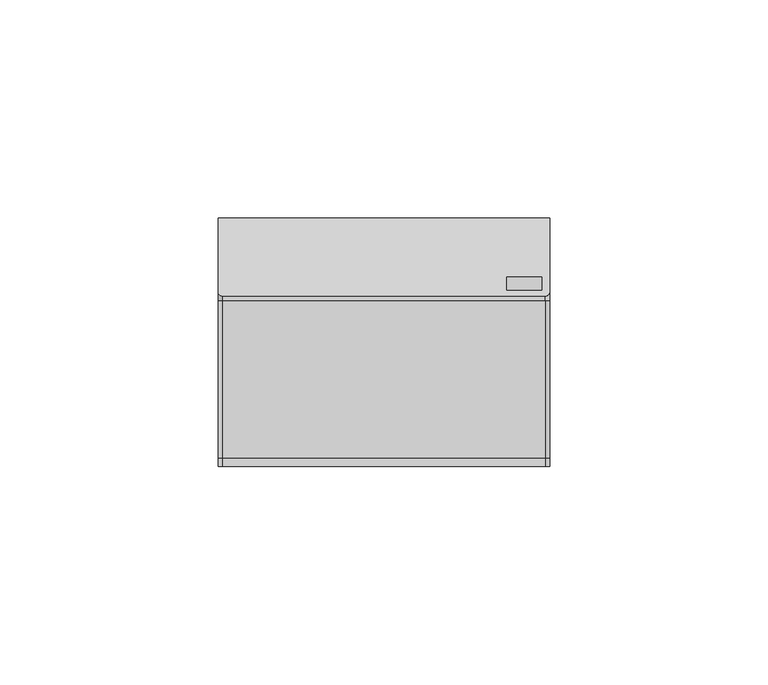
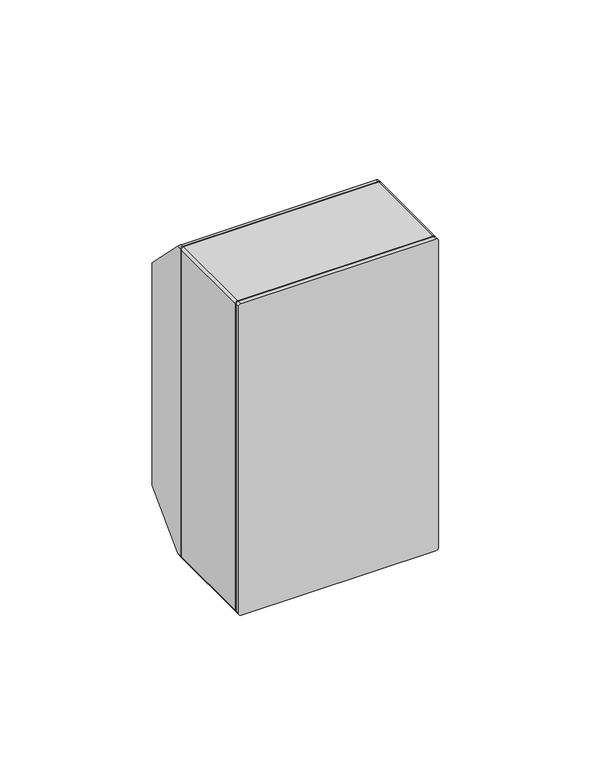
"""IFC4 building model written with IfcOpenShell, lengths in millimetres: proxy geometry, КМПн-1_4 : КМПн-1/4."""

import ifcopenshell
import ifcopenshell.guid

model = None  # the IFC model being written
_history = None  # IfcOwnerHistory: only IFC2X3 demands one
_inside = {}  # id of a spatial element -> (the spatial element, [elements in it])
_under = {}  # id of a project, library or spatial element -> (it, [spatial elements below it])
_declared = {}  # id of a project -> (the project, [libraries it declares])
_typed = {}  # id of a type object -> (the type object, [elements of that type])
_made_of = {}  # id of a material, layer set ... -> (it, [elements and type objects made of it])


def new_model(schema):
    """Start an empty IFC model of exactly this schema.

    Asked for "IFC4X3", IfcOpenShell would pick the latest addendum, in which some entities
    have other attributes; the version numbers below select the first issue.
    IFC2X3 requires an IfcOwnerHistory on every rooted entity: one is made here for all.
    """
    global model, _history
    if schema == "IFC4X3":
        model = ifcopenshell.file(schema_version=(4, 3, 0, 0))
    else:
        model = ifcopenshell.file(schema=schema)
    _inside.clear()
    _under.clear()
    _declared.clear()
    _typed.clear()
    _made_of.clear()
    _history = None
    if model.schema == "IFC2X3":
        org = make("IfcOrganization", Name="unknown")
        user = make(
            "IfcPersonAndOrganization",
            ThePerson=make("IfcPerson", FamilyName="unknown"),
            TheOrganization=org,
        )
        app = make(
            "IfcApplication",
            ApplicationDeveloper=org,
            Version="unknown",
            ApplicationFullName="unknown",
            ApplicationIdentifier="unknown",
        )
        _history = make(
            "IfcOwnerHistory",
            OwningUser=user,
            OwningApplication=app,
            ChangeAction="ADDED",
            CreationDate=0,
        )
    return model


def make(cls, **values):
    """One entity of the class cls with the attributes given. An attribute that is None is left unset."""
    return model.create_entity(
        cls, **{name: value for name, value in values.items() if value is not None}
    )


def rooted(cls, **values):
    """An entity with a GlobalId (a new one), such as an element, a storey or a relation."""
    return make(cls, GlobalId=ifcopenshell.guid.new(), OwnerHistory=_history, **values)


def si_unit(unit_type, name, prefix=None):
    """IfcSIUnit, for example si_unit("LENGTHUNIT", "METRE", prefix="MILLI")."""
    return make("IfcSIUnit", UnitType=unit_type, Prefix=prefix, Name=name)


def assignment(units):
    """IfcUnitAssignment: the units of a project."""
    return None if units is None else make("IfcUnitAssignment", Units=units)


def point(xyz):
    """IfcCartesianPoint."""
    return None if xyz is None else make("IfcCartesianPoint", Coordinates=xyz)


def direction(xyz):
    """IfcDirection."""
    return None if xyz is None else make("IfcDirection", DirectionRatios=xyz)


def frame(location, z_axis=None, x_axis=None):
    """IfcAxis2Placement3D, a coordinate frame: its origin and axes. An axis left out is left unset."""
    return make(
        "IfcAxis2Placement3D",
        Location=point(location),
        Axis=direction(z_axis),
        RefDirection=direction(x_axis),
    )


def frame_2d(location, x_axis=None):
    """IfcAxis2Placement2D, a coordinate frame in the plane: its origin and x axis."""
    return make(
        "IfcAxis2Placement2D", Location=point(location), RefDirection=direction(x_axis)
    )


def origin():
    """The frame at (0, 0, 0) with its axes left unset."""
    return frame((0.0, 0.0, 0.0))


def place(relative_to, where):
    """IfcLocalPlacement: puts the frame where relative to a parent placement (None: the world)."""
    return make(
        "IfcLocalPlacement", PlacementRelTo=relative_to, RelativePlacement=where
    )


def context(
    kind, dimensions, precision=None, world=None, true_north=None, identifier=None
):
    """IfcGeometricRepresentationContext, for example the 3D "Model" context."""
    return make(
        "IfcGeometricRepresentationContext",
        ContextIdentifier=identifier,
        ContextType=kind,
        CoordinateSpaceDimension=dimensions,
        Precision=precision,
        WorldCoordinateSystem=world,
        TrueNorth=true_north,
    )


def project(units=None, contexts=None):
    """IfcProject with its units and contexts."""
    return rooted(
        "IfcProject",
        Name="project",
        RepresentationContexts=contexts,
        UnitsInContext=assignment(units),
    )


def spatial(cls, under=None, at=None, **own):
    """A site, building, storey or space (cls), placed at a placement, below another one or the project."""
    s = rooted(cls, ObjectPlacement=at, **own)
    if under is not None:
        _under.setdefault(under.id(), (under, []))[1].append(s)
    return s


def polyline(points):
    """IfcPolyline through the points."""
    return make("IfcPolyline", Points=[point(p) for p in points])


def circle_curve(where, radius):
    """IfcCircle in the frame where."""
    return make("IfcCircle", Position=where, Radius=radius)


def ellipse_curve(where, semi_axis1, semi_axis2):
    """IfcEllipse in the frame where."""
    return make(
        "IfcEllipse", Position=where, SemiAxis1=semi_axis1, SemiAxis2=semi_axis2
    )


def trimmed(basis, trim1, trim2, sense, master):
    """IfcTrimmedCurve: the piece of a basis curve between two trims."""
    return make(
        "IfcTrimmedCurve",
        BasisCurve=basis,
        Trim1=trim1,
        Trim2=trim2,
        SenseAgreement=sense,
        MasterRepresentation=master,
    )


def segment(curve, same_sense, transition):
    """IfcCompositeCurveSegment."""
    return make(
        "IfcCompositeCurveSegment",
        Transition=transition,
        SameSense=same_sense,
        ParentCurve=curve,
    )


def composite_curve(segments, self_intersect=None):
    """IfcCompositeCurve: segments joined end to end."""
    return make("IfcCompositeCurve", Segments=segments, SelfIntersect=self_intersect)


def outline(outer, holes=None, kind="AREA"):
    """IfcArbitraryClosedProfileDef: a profile drawn as a closed curve; with holes, ...WithVoids."""
    if holes is None:
        return make("IfcArbitraryClosedProfileDef", ProfileType=kind, OuterCurve=outer)
    return make(
        "IfcArbitraryProfileDefWithVoids",
        ProfileType=kind,
        OuterCurve=outer,
        InnerCurves=holes,
    )


def extrude(swept, where, along, depth):
    """IfcExtrudedAreaSolid: the profile swept, set in the frame where, extruded along a direction by depth."""
    return make(
        "IfcExtrudedAreaSolid",
        SweptArea=swept,
        Position=where,
        ExtrudedDirection=direction(along),
        Depth=depth,
    )


def shape(context_of_items, identifier, shape_type, items):
    """IfcShapeRepresentation: the items that make up one representation, for example the "Body"."""
    return make(
        "IfcShapeRepresentation",
        ContextOfItems=context_of_items,
        RepresentationIdentifier=identifier,
        RepresentationType=shape_type,
        Items=items,
    )


def source(mapping_origin, context_of_items, identifier, shape_type, items):
    """IfcRepresentationMap: a shape defined once, which mapped items show again and again."""
    return make(
        "IfcRepresentationMap",
        MappingOrigin=mapping_origin,
        MappedRepresentation=shape(context_of_items, identifier, shape_type, items),
    )


def transform(
    local_origin,
    x_axis=None,
    y_axis=None,
    z_axis=None,
    scale=None,
    scale2=None,
    scale3=None,
    uniform=True,
):
    """IfcCartesianTransformationOperator3D, or its non-uniform kind. x_axis, y_axis, z_axis: its Axis1, 2, 3."""
    if uniform:
        return make(
            "IfcCartesianTransformationOperator3D",
            Axis1=direction(x_axis),
            Axis2=direction(y_axis),
            LocalOrigin=point(local_origin),
            Scale=scale,
            Axis3=direction(z_axis),
        )
    return make(
        "IfcCartesianTransformationOperator3DnonUniform",
        Axis1=direction(x_axis),
        Axis2=direction(y_axis),
        LocalOrigin=point(local_origin),
        Scale=scale,
        Axis3=direction(z_axis),
        Scale2=scale2,
        Scale3=scale3,
    )


def mapped(mapping_source, mapping_target):
    """IfcMappedItem: shows the shape of a source again, moved by a transform."""
    return make(
        "IfcMappedItem", MappingSource=mapping_source, MappingTarget=mapping_target
    )


def made_of(thing, what):
    """Note that an element or type object is made of a material, layer set ...; save() writes the relation."""
    if what is not None:
        _made_of.setdefault(what.id(), (what, []))[1].append(thing)
    return thing


def element(
    cls,
    number,
    at=None,
    inside=None,
    cuts=None,
    type_object=None,
    material=None,
    context=None,
    identifier="Body",
    shape_type=None,
    held_by="IfcProductDefinitionShape",
    body=None,
    shapes=None,
    **own,
):
    """One element of the class cls, such as IfcWall. Its Tag is "e" and its number.

    at: its placement. inside: the storey or other place that contains it. cuts: it is an
    opening in that element (IfcRelVoidsElement). A single representation is given by context,
    identifier, shape_type and body (its items); several are given by shapes. held_by: the class
    of the entity that holds the representations. save() writes the other relations.
    """
    e = rooted(cls, Tag="e%d" % number, ObjectPlacement=at, **own)
    if body is not None:
        shapes = [shape(context, identifier, shape_type, body)]
    if shapes is not None:
        e.Representation = make(held_by, Representations=shapes)
    if inside is not None:
        _inside.setdefault(inside.id(), (inside, []))[1].append(e)
    if cuts is not None:
        rooted(
            "IfcRelVoidsElement", RelatingBuildingElement=cuts, RelatedOpeningElement=e
        )
    if type_object is not None:
        _typed.setdefault(type_object.id(), (type_object, []))[1].append(e)
    return made_of(e, material)


def aggregate(whole, parts):
    """IfcRelAggregates: a whole, such as a stair, and the parts it consists of."""
    return rooted("IfcRelAggregates", RelatingObject=whole, RelatedObjects=parts)


def save(model, path):
    """Write the relations noted so far, then the file.

    IfcRelAggregates (storeys below a building ...), IfcRelContainedInSpatialStructure (elements
    in a storey), IfcRelDefinesByType, IfcRelAssociatesMaterial and IfcRelDeclares: one each for
    every whole, place, type object, material and project.
    """
    for whole, parts in _under.values():
        aggregate(whole, parts)
    for where, things in _inside.values():
        rooted(
            "IfcRelContainedInSpatialStructure",
            RelatedElements=things,
            RelatingStructure=where,
        )
    for kind, things in _typed.values():
        rooted("IfcRelDefinesByType", RelatedObjects=things, RelatingType=kind)
    for what, things in _made_of.values():
        rooted("IfcRelAssociatesMaterial", RelatedObjects=things, RelatingMaterial=what)
    for by, libraries in _declared.values():
        rooted("IfcRelDeclares", RelatingContext=by, RelatedDefinitions=libraries)
    model.write(path)


def plane_surface(at):
    """IfcPlane: the flat surface through the origin of the frame at, square to its z axis."""
    return make("IfcPlane", Position=at)


def cylinder_surface(at, radius):
    """IfcCylindricalSurface: all points at the distance radius from the z axis of the frame at."""
    return make("IfcCylindricalSurface", Position=at, Radius=radius)


def advanced_brep(points, edges, surfaces, faces):
    """IfcAdvancedBrep: a solid bounded by faces that lie on surfaces and meet in shared edges.

    An edge is (start, end): straight between two places in points (the first is 0);
    or (start, end, curve); or (start, end, curve, False) where it runs against its curve.
    A face is (place in surfaces, loops), or (place, loops, False) where it looks against
    its surface's normal. A loop lists edges by number (the first is 1), with a minus sign
    where the edge is run from its end to its start. The first loop is the outer one.
    """
    corners = [point(p) for p in points]
    vertices = [make("IfcVertexPoint", VertexGeometry=c) for c in corners]
    made = []
    for start, end, *more in edges:
        made.append(
            make(
                "IfcEdgeCurve",
                EdgeStart=vertices[start],
                EdgeEnd=vertices[end],
                EdgeGeometry=more[0] if more else make("IfcPolyline", Points=[corners[start], corners[end]]),
                SameSense=more[1] if len(more) > 1 else True,
            )
        )
    hull = []
    for where, loops, *sense in faces:
        bounds = []
        for j, loop in enumerate(loops):
            ring = [make("IfcOrientedEdge", EdgeElement=made[abs(k) - 1], Orientation=k > 0) for k in loop]
            bounds.append(
                make(
                    "IfcFaceOuterBound" if j == 0 else "IfcFaceBound",
                    Bound=make("IfcEdgeLoop", EdgeList=ring),
                    Orientation=True,
                )
            )
        hull.append(make("IfcAdvancedFace", Bounds=bounds, FaceSurface=surfaces[where], SameSense=sense[0] if sense else True))
    return make("IfcAdvancedBrep", Outer=make("IfcClosedShell", CfsFaces=hull))


def electrical_equipment_338b28ef(model_context):
    return source(origin(), model_context, "Body", "SolidModel", [
        advanced_brep(
        [(38.0, 57.0, 17.8949117), (38.0, 57.0, 107.1050883), (38.0, 40.1050883, 124.0), (38.0, 38.1050883, 124.0), (38.0, 38.1050883, 1.0), (38.0, 40.1050883, 1.0), (-38.0, 57.0, 107.1050883), (-38.0, 57.0, 17.8949117), (-38.0, 40.1050883, 1.0), (-38.0, 38.1050883, 1.0), (-38.0, 38.1050883, 124.0), (-38.0, 40.1050883, 124.0), (37.0, 38.1050883, 125.0), (-37.0, 38.1050883, 125.0), (-37.0, 38.1050883, 0.0), (37.0, 38.1050883, 0.0), (-23.0, 38.1050883, 95.0), (23.0, 38.1050883, 95.0), (23.0, 38.1050883, 30.0), (-23.0, 38.1050883, 30.0), (28.1494483, 38.1050883, 120.6777382), (28.1494483, 38.1050883, 123.6777382), (36.1494483, 38.1050883, 123.6777382), (36.1494483, 38.1050883, 120.6777382), (-28.1494483, 38.1050883, 4.3222618), (-28.1494483, 38.1050883, 1.3222618), (-36.1494483, 38.1050883, 1.3222618), (-36.1494483, 38.1050883, 4.3222618), (-37.0, 39.1050883, 125.0), (37.0, 39.1050883, 125.0), (28.1494483, 40.42735, 123.6777382), (28.1494483, 43.42735, 120.6777382), (36.1494483, 43.42735, 120.6777382), (36.1494483, 40.42735, 123.6777382), (23.0, 57.0, 95.0), (-23.0, 57.0, 95.0), (-23.0, 57.0, 30.0), (23.0, 57.0, 30.0), (-37.0, 39.1050883, 0.0), (37.0, 39.1050883, 0.0), (-28.1494483, 40.42735, 1.3222618), (-28.1494483, 43.42735, 4.3222618), (-36.1494483, 43.42735, 4.3222618), (-36.1494483, 40.42735, 1.3222618)],
        [
            (0, 1),
            (1, 2),
            (2, 3),
            (3, 4),
            (4, 5),
            (5, 0),
            (6, 7),
            (7, 8),
            (8, 9),
            (9, 10),
            (10, 11),
            (11, 6),
            (3, 12, circle_curve(frame((37.0, 38.1050883, 124.0), z_axis=(0.0, -1.0, 0.0), x_axis=(1.0, 0.0, 0.0)), 1.0)),
            (12, 13),
            (13, 10, circle_curve(frame((-37.0, 38.1050883, 124.0), z_axis=(0.0, -1.0, 0.0), x_axis=(1.0, 0.0, 0.0)), 1.0)),
            (9, 14, circle_curve(frame((-37.0, 38.1050883, 1.0), z_axis=(0.0, -1.0, 0.0), x_axis=(1.0, 0.0, 0.0)), 1.0)),
            (14, 15),
            (15, 4, circle_curve(frame((37.0, 38.1050883, 1.0), z_axis=(0.0, -1.0, 0.0), x_axis=(1.0, 0.0, 0.0)), 1.0)),
            (16, 17),
            (17, 18),
            (18, 19),
            (19, 16),
            (20, 21),
            (21, 22),
            (22, 23),
            (23, 20),
            (24, 25),
            (25, 26),
            (26, 27),
            (27, 24),
            (1, 6),
            (11, 28, ellipse_curve(frame((-37.0, 40.1050883, 124.0), z_axis=(0.0, 0.7071067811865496, 0.7071067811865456), x_axis=(0.0, 0.7071067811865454, -0.7071067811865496)), 1.4142136, 1.0)),
            (28, 29),
            (29, 2, ellipse_curve(frame((37.0, 40.1050883, 124.0), z_axis=(0.0, 0.7071067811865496, 0.7071067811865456), x_axis=(0.0, 0.7071067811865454, -0.7071067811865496)), 1.4142136, 1.0)),
            (30, 31),
            (31, 32),
            (32, 33),
            (33, 30),
            (0, 7),
            (34, 35),
            (35, 36),
            (36, 37),
            (37, 34),
            (34, 17),
            (16, 35),
            (19, 36),
            (18, 37),
            (29, 12),
            (14, 38),
            (38, 39),
            (39, 15),
            (5, 39, ellipse_curve(frame((37.0, 40.1050883, 1.0), z_axis=(0.0, 0.7071067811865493, -0.7071067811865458), x_axis=(0.0, 0.7071067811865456, 0.7071067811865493)), 1.4142136, 1.0)),
            (38, 8, ellipse_curve(frame((-37.0, 40.1050883, 1.0), z_axis=(0.0, 0.7071067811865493, -0.7071067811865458), x_axis=(0.0, 0.7071067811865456, 0.7071067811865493)), 1.4142136, 1.0)),
            (40, 41),
            (41, 42),
            (42, 43),
            (43, 40),
            (28, 13),
            (30, 21),
            (20, 31),
            (23, 32),
            (22, 33),
            (40, 25),
            (24, 41),
            (27, 42),
            (26, 43),
        ],
        [
            plane_surface(frame((38.0, 38.1050883, 0.0), z_axis=(1.0, 0.0, 0.0), x_axis=(0.0, 0.0, -1.0))),
            plane_surface(frame((-38.0, 38.1050883, 0.0), z_axis=(-1.0, 0.0, 0.0), x_axis=(0.0, 0.0, 1.0))),
            plane_surface(frame((38.0, 38.1050883, 125.0), z_axis=(0.0, -1.0, 0.0), x_axis=(-1.0, 0.0, 0.0))),
            plane_surface(frame((38.0, 57.0, 107.1050883), z_axis=(0.0, 0.7071067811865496, 0.7071067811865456), x_axis=(-1.0, 0.0, 0.0))),
            plane_surface(frame((38.0, 57.0, 17.8949117), z_axis=(0.0, 1.0, 0.0), x_axis=(-1.0, 0.0, 0.0))),
            plane_surface(frame((23.0, 28.0, 95.0), z_axis=(0.0, 0.0, -1.0), x_axis=(0.0, 1.0, 0.0))),
            plane_surface(frame((-23.0, 28.0, 95.0), z_axis=(1.0, 0.0, 0.0), x_axis=(0.0, 1.0, 0.0))),
            plane_surface(frame((-23.0, 28.0, 30.0), z_axis=(0.0, 0.0, 1.0), x_axis=(0.0, 1.0, 0.0))),
            plane_surface(frame((23.0, 28.0, 30.0), z_axis=(-1.0, 0.0, 0.0), x_axis=(0.0, 1.0, 0.0))),
            cylinder_surface(frame((37.0, 54.9735274, 124.0), z_axis=(0.0, 1.0, 0.0), x_axis=(1.0, 0.0, 0.0)), 1.0),
            plane_surface(frame((38.0, 38.1050883, 0.0), z_axis=(0.0, 3.0645985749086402e-12, -1.0), x_axis=(-1.0, 0.0, 0.0))),
            plane_surface(frame((38.0, 39.1050883, 0.0), z_axis=(0.0, 0.7071067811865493, -0.7071067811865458), x_axis=(-1.0, 0.0, 0.0))),
            plane_surface(frame((38.0, 39.1050883, 125.0), z_axis=(0.0, 3.0624836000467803e-12, 1.0), x_axis=(-1.0, 0.0, 0.0))),
            cylinder_surface(frame((-37.0, -16.0, 124.0), z_axis=(0.0, 1.0, 0.0), x_axis=(1.0, 0.0, 0.0)), 1.0),
            cylinder_surface(frame((37.0, -16.0, 1.0), z_axis=(0.0, 1.0, 0.0), x_axis=(1.0, 0.0, 0.0)), 1.0),
            cylinder_surface(frame((-37.0, -16.0, 1.0), z_axis=(0.0, 1.0, 0.0), x_axis=(1.0, 0.0, 0.0)), 1.0),
            plane_surface(frame((28.1494483, 38.1050883, 123.6777382), z_axis=(1.0, 0.0, 0.0), x_axis=(0.0, 1.0, 0.0))),
            plane_surface(frame((28.1494483, 38.1050883, 120.6777382), z_axis=(0.0, 0.0, 1.0), x_axis=(0.0, 1.0, 0.0))),
            plane_surface(frame((36.1494483, 38.1050883, 120.6777382), z_axis=(-1.0, 0.0, 0.0), x_axis=(0.0, 1.0, 0.0))),
            plane_surface(frame((36.1494483, 38.1050883, 123.6777382), z_axis=(0.0, 0.0, -1.0), x_axis=(0.0, 1.0, 0.0))),
            plane_surface(frame((-28.1494483, 38.1050883, 1.3222618), z_axis=(-1.0, 0.0, 0.0), x_axis=(0.0, 1.0, 0.0))),
            plane_surface(frame((-28.1494483, 38.1050883, 4.3222618), z_axis=(0.0, 0.0, -1.0), x_axis=(0.0, 1.0, 0.0))),
            plane_surface(frame((-36.1494483, 38.1050883, 4.3222618), z_axis=(1.0, 0.0, 0.0), x_axis=(0.0, 1.0, 0.0))),
            plane_surface(frame((-36.1494483, 38.1050883, 1.3222618), z_axis=(0.0, 0.0, 1.0), x_axis=(0.0, 1.0, 0.0))),
        ],
        [
            (0, [[1, 2, 3, 4, 5, 6]]),
            (1, [[7, 8, 9, 10, 11, 12]]),
            (2, [[-4, 13, 14, 15, -10, 16, 17, 18], [19, 20, 21, 22], [23, 24, 25, 26], [27, 28, 29, 30]]),
            (3, [[31, -12, 32, 33, 34, -2], [35, 36, 37, 38]]),
            (4, [[-1, 39, -7, -31], [40, 41, 42, 43]]),
            (5, [[44, -19, 45, -40]]),
            (6, [[-45, -22, 46, -41]]),
            (7, [[-46, -21, 47, -42]]),
            (8, [[-44, -43, -47, -20]]),
            (9, [[-3, -34, 48, -13]]),
            (10, [[-17, 49, 50, 51]]),
            (11, [[-39, -6, 52, -50, 53, -8], [54, 55, 56, 57]]),
            (12, [[-14, -48, -33, 58]]),
            (13, [[-11, -15, -58, -32]]),
            (14, [[-5, -18, -51, -52]]),
            (15, [[-9, -53, -49, -16]]),
            (16, [[59, -23, 60, -35]]),
            (17, [[-60, -26, 61, -36]]),
            (18, [[-61, -25, 62, -37]]),
            (19, [[-59, -38, -62, -24]]),
            (20, [[63, -27, 64, -54]]),
            (21, [[-64, -30, 65, -55]]),
            (22, [[-65, -29, 66, -56]]),
            (23, [[-63, -57, -66, -28]]),
        ],
    ),
        extrude(outline(composite_curve([segment(polyline([(125.0, 37.0143257), (125.0, -36.9856743)]), True, "CONTINUOUS"), segment(trimmed(circle_curve(frame_2d((124.0, -36.9856743)), 1.0), [point((125.0, -36.9856743))], [point((124.0, -37.9856743))], False, "CARTESIAN"), True, "CONTINUOUS"), segment(polyline([(124.0, -37.9856743), (1.0, -37.9856743)]), True, "CONTINUOUS"), segment(trimmed(circle_curve(frame_2d((1.0, -36.9856743)), 1.0), [point((1.0, -37.9856743))], [point((0.0, -36.9856743))], False, "CARTESIAN"), True, "CONTINUOUS"), segment(polyline([(0.0, -36.9856743), (0.0, 37.0143257)]), True, "CONTINUOUS"), segment(trimmed(circle_curve(frame_2d((1.0, 37.0143257)), 1.0), [point((0.0, 37.0143257))], [point((1.0, 38.0143257))], False, "CARTESIAN"), True, "CONTINUOUS"), segment(polyline([(1.0, 38.0143257), (124.0, 38.0143257)]), True, "CONTINUOUS"), segment(trimmed(circle_curve(frame_2d((124.0, 37.0143257)), 1.0), [point((124.0, 38.0143257))], [point((125.0, 37.0143257))], False, "CARTESIAN"), True, "CONTINUOUS")], self_intersect=False), holes=[polyline([(120.9981471, 29.4911629), (4.0018529, 29.4911629), (4.0018529, -29.4911629), (120.9981471, -29.4911629), (120.9981471, 29.4911629)])]), frame((0.0, 2.0, 0.0), z_axis=(0.0, 1.0, 0.0), x_axis=(0.0, 0.0, 1.0)), (0.0, 0.0, 1.0), 36.1050883),
        extrude(outline(composite_curve([segment(polyline([(125.0, 37.0), (125.0, -37.0)]), True, "CONTINUOUS"), segment(trimmed(circle_curve(frame_2d((124.0, -37.0)), 1.0), [point((125.0, -37.0))], [point((124.0, -38.0))], False, "CARTESIAN"), True, "CONTINUOUS"), segment(polyline([(124.0, -38.0), (1.0, -38.0)]), True, "CONTINUOUS"), segment(trimmed(circle_curve(frame_2d((1.0, -37.0)), 1.0), [point((1.0, -38.0))], [point((0.0, -37.0))], False, "CARTESIAN"), True, "CONTINUOUS"), segment(polyline([(0.0, -37.0), (0.0, 37.0)]), True, "CONTINUOUS"), segment(trimmed(circle_curve(frame_2d((1.0, 37.0)), 1.0), [point((0.0, 37.0))], [point((1.0, 38.0))], False, "CARTESIAN"), True, "CONTINUOUS"), segment(polyline([(1.0, 38.0), (124.0, 38.0)]), True, "CONTINUOUS"), segment(trimmed(circle_curve(frame_2d((124.0, 37.0)), 1.0), [point((124.0, 38.0))], [point((125.0, 37.0))], False, "CARTESIAN"), True, "CONTINUOUS")], self_intersect=False)), frame((0.0, 0.0, 0.0), z_axis=(0.0, 1.0, 0.0), x_axis=(0.0, 0.0, 1.0)), (0.0, 0.0, 1.0), 2.0),
    ])


if __name__ == "__main__":
    model = new_model("IFC4")
    model_context = context("Model", 3, world=origin())
    ifc_project = project(units=[si_unit("LENGTHUNIT", "METRE", prefix="MILLI")], contexts=[model_context])
    site = spatial("IfcSite", under=ifc_project)
    building = spatial("IfcBuilding", under=site)
    placement = place(None, origin())
    electrical_equipment_shape = electrical_equipment_338b28ef(model_context)
    element("IfcBuildingElementProxy", 1, Name="КМПн-1_4 : КМПн-1/4", ObjectType="КМПн-1_4 : КМПн-1/4", at=placement, inside=building, context=model_context, shape_type="MappedRepresentation", body=[
        mapped(electrical_equipment_shape, transform((0.0, 0.0, 0.0), x_axis=(1.0, 0.0, 0.0), y_axis=(0.0, 1.0, 0.0), z_axis=(0.0, 0.0, 1.0))),
    ])
    save(model, "model.ifc")
